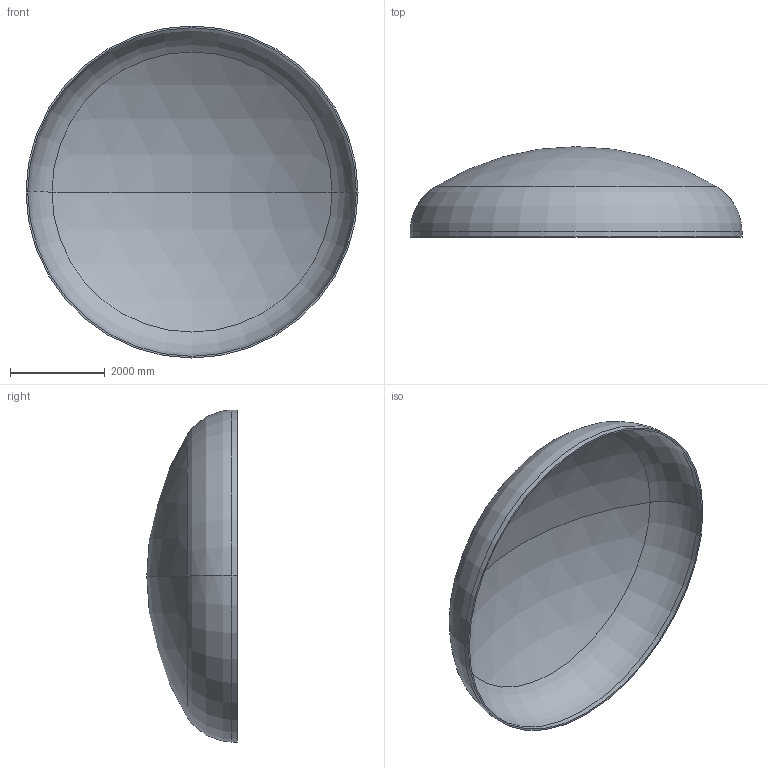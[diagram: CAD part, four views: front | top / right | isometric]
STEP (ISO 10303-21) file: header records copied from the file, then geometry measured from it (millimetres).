
FILE_DESCRIPTION (( 'STEP AP203' ), '1' );
FILE_NAME ('DIN 28013 Korbbogenform_-_Boden DIN 28013 - 7000 x 110 - I - s=36.step', '2016-07-04T10:46:55', ( '' ), ( '' ), 'SwSTEP 2.0', 'SolidWorks 2013', '' );
FILE_SCHEMA (( 'CONFIG_CONTROL_DESIGN' ));
Length unit declared in the file: millimetre
Products named in the file (1): DIN 28013 Korbbogenform_-_Boden DIN 28013 - 7000 x 110 - I - s=36
Bounding box: 7000 x 1905.83 x 7000 mm (x, y, z)
Volume: 1993205427.1 mm3; surface area: 111523915.3 mm2
Topology: 1 solids, 1 shells, 13 faces, 24 edges, 14 vertices
Faces by surface type: torus 4, cylinder 4, sphere 4, plane 1
Entity records: 407 total; most frequent: DIRECTION 72, CARTESIAN_POINT 52, ORIENTED_EDGE 48, AXIS2_PLACEMENT_3D 34, EDGE_CURVE 24, CIRCLE 20, VERTEX_POINT 14, EDGE_LOOP 14
